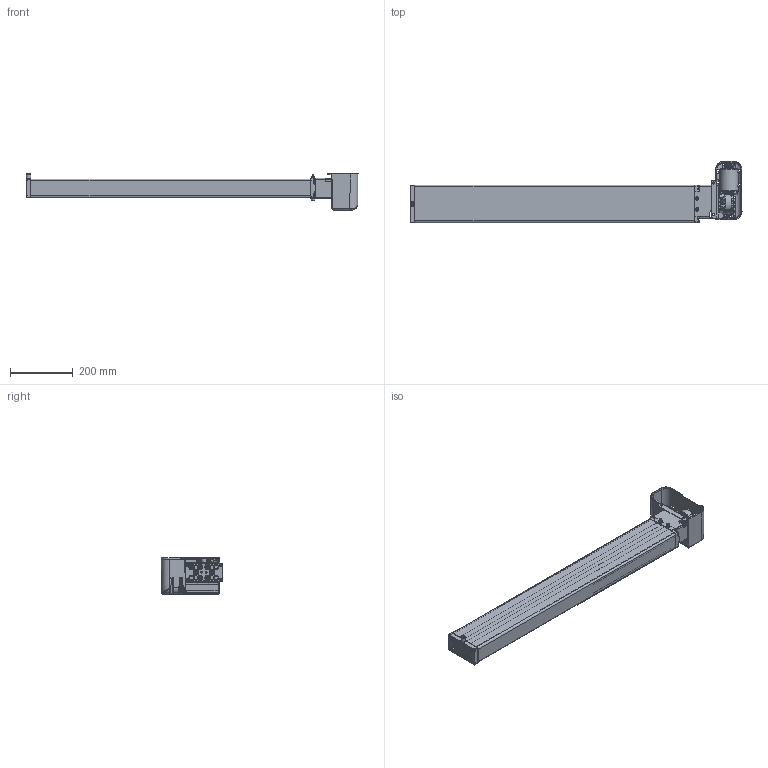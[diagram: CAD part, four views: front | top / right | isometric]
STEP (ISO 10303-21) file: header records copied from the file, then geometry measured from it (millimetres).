
FILE_DESCRIPTION(/* description */ ('Unknown'),/* implementation_level */ '2;1');
FILE_NAME(/* name */ '3X2.20294 Pumpe PB 7440 W mit Antrieb',/* time_stamp */ '2016-11-25T11:56:55+01:00',/* author */ ('Unknown'),/* organization */ ('Unknown'),/* preprocessor_version */ 'ST-DEVELOPER v16.7',/* originating_system */ 'DEX',/* authorisation */ $);
FILE_SCHEMA (('AUTOMOTIVE_DESIGN {1 0 10303 214 3 1 1}'));
Products named in the file (32): 102.00294; 115.10027; 125.00031; 115.00007; 142.00021; 125.00021; 142.00013; 125.00147; 115.00140; 126.00006; 122.00040; 119.00047; 126.00036; 127.00201; 127.00200; 127.00023; 124.00090; Getriebe; Ring; Schraube; Stator; Abdeckplatte; Antriebswelle; 128.00051; 123.00031; 142.00018; 142.00019; 142.00025; 142.00131; 123.00029; 142.00057; 142.00017
Assembly tree (50 placements, depth 3):
  102.00294
    115.10027  x7
      125.00031
      115.00007
      142.00021
      125.00021
    142.00013  x8
    125.00147
    115.00140
      126.00006
      122.00040
    119.00047
    126.00036
    127.00201
      127.00200
      127.00023
    124.00090
      Getriebe
      Ring
      Schraube
      Stator
      Abdeckplatte
      Antriebswelle
    128.00051
    123.00031
    142.00018  x2
    142.00019  x2
    142.00025  x2
    142.00131  x3
    123.00029
    142.00057
    142.00017  x2
Bounding box: 1059.45 x 196.04 x 115.45 mm (x, y, z)
Volume: 1570497 mm3; surface area: 1051824.7 mm2
Topology: 57 solids, 59 shells, 4309 faces, 10843 edges, 6647 vertices
Faces by surface type: plane 1331, cylinder 1169, bspline 1040, cone 478, torus 194, sphere 97
Full cylindrical faces by diameter (mm): 2.5 x4, 3.2 x4, 3.5 x7, 3.9 x5, 4.1 x7, 4.134 x4, 4.2 x9, 4.4 x5, 4.5 x1, 4.917 x4, 5 x8, 5.5 x5, 5.8 x4, 6 x8, 6.4 x2, 6.8 x6, 6.917 x14, 7 x1, 8 x16, 8.5 x6, 9 x9, 9.5 x1, 9.8 x8, 10 x10, 10.3 x1, 10.32 x1, 10.4 x1, 10.5 x4, 11 x5, 12.5 x7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
Entity records: 164928 total; most frequent: CARTESIAN_POINT 80619, ORIENTED_EDGE 16008, DIRECTION 12021, EDGE_CURVE 8004, VERTEX_POINT 5254, AXIS2_PLACEMENT_3D 4654, FACE_BOUND 4000, EDGE_LOOP 3995
